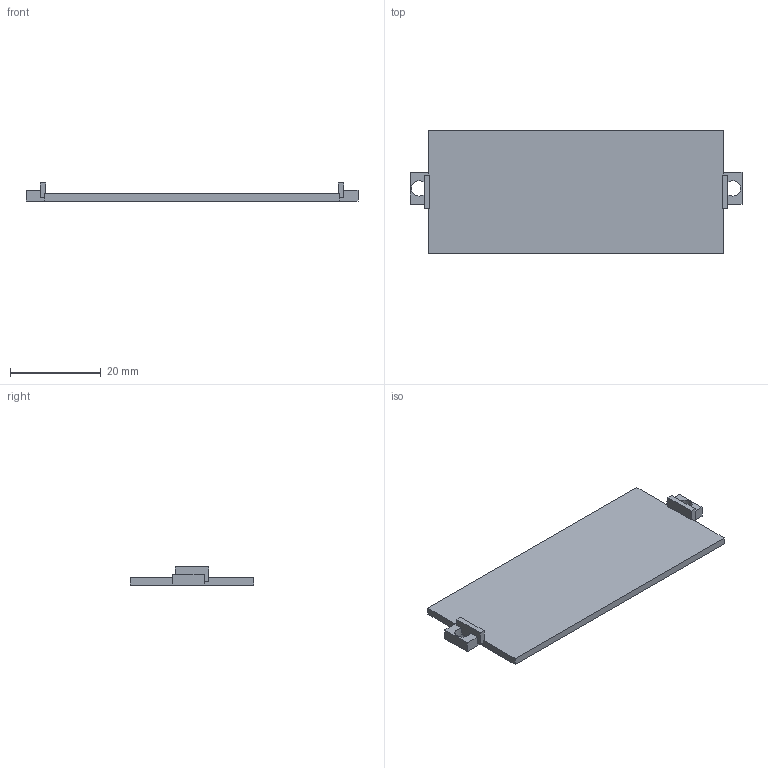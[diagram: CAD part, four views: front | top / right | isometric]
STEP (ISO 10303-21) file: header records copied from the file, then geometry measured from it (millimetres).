
FILE_DESCRIPTION(('FreeCAD Model'),'2;1');
FILE_NAME('Open CASCADE Shape Model','2026-11-20T08:25:38',('FreeCAD'),( 'FreeCAD'),'Open CASCADE STEP processor 7.8','FreeCAD','Unknown');
FILE_SCHEMA(('AUTOMOTIVE_DESIGN { 1 0 10303 214 1 1 1 1 }'));
Length unit declared in the file: millimetre
Products named in the file (1): Open CASCADE STEP translator 7.8 54
Bounding box: 73.2 x 27.2 x 4 mm (x, y, z)
Volume: 2965.9 mm3; surface area: 4095.1 mm2
Topology: 1 solids, 1 shells, 34 faces, 100 edges, 66 vertices
Faces by surface type: plane 32, cylinder 2
Full cylindrical faces by diameter (mm): 3.4 x2
Entity records: 1134 total; most frequent: CARTESIAN_POINT 201, ORIENTED_EDGE 200, DIRECTION 178, EDGE_CURVE 100, LINE 92, VECTOR 92, VERTEX_POINT 66, AXIS2_PLACEMENT_3D 43
